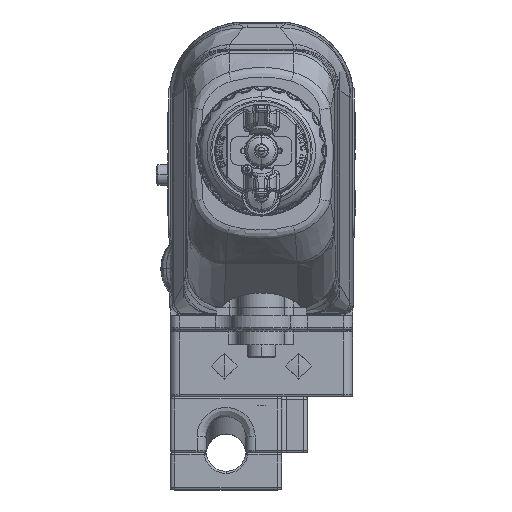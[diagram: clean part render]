
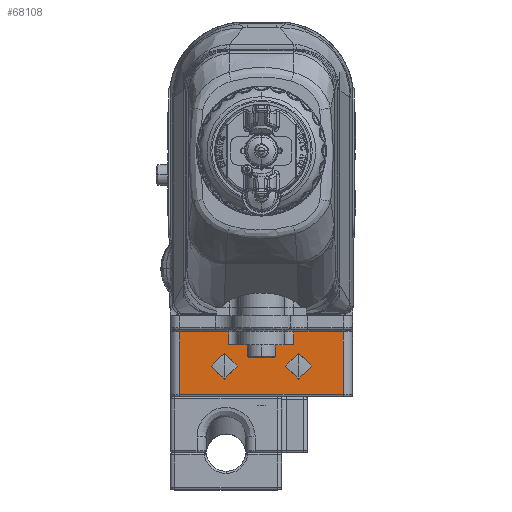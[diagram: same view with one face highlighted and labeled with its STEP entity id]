
A CAD part, top view. The second image highlights one B-rep face of the part: STEP entity #68108.
In plain terms, the highlighted planar face has unit normal (0, 0, 1).
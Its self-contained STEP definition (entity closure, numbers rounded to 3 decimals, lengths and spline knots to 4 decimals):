
#61827=DIRECTION('',(-1.,0.,0.));
#61828=VECTOR('',#61827,0.8729);
#61829=CARTESIAN_POINT('',(0.4364,-3.3,1.99));
#61830=LINE('',#61829,#61828);
#63780=DIRECTION('',(-1.,0.,0.));
#63781=VECTOR('',#63780,2.2);
#63782=CARTESIAN_POINT('',(1.1,-3.97,1.99));
#63783=LINE('',#63782,#63781);
#63784=DIRECTION('',(0.,1.,0.));
#63785=VECTOR('',#63784,0.84);
#63786=CARTESIAN_POINT('',(-1.1,-3.97,1.99));
#63787=LINE('',#63786,#63785);
#63788=DIRECTION('',(1.,0.,0.));
#63789=VECTOR('',#63788,0.6636);
#63790=CARTESIAN_POINT('',(-1.1,-3.13,1.99));
#63791=LINE('',#63790,#63789);
#63792=DIRECTION('',(0.,1.,0.));
#63793=VECTOR('',#63792,0.17);
#63794=CARTESIAN_POINT('',(-0.4364,-3.3,1.99));
#63795=LINE('',#63794,#63793);
#63796=DIRECTION('',(0.,1.,0.));
#63797=VECTOR('',#63796,0.17);
#63798=CARTESIAN_POINT('',(0.4364,-3.3,1.99));
#63799=LINE('',#63798,#63797);
#63800=DIRECTION('',(1.,0.,0.));
#63801=VECTOR('',#63800,0.6636);
#63802=CARTESIAN_POINT('',(0.4364,-3.13,1.99));
#63803=LINE('',#63802,#63801);
#63804=DIRECTION('',(0.,1.,0.));
#63805=VECTOR('',#63804,0.84);
#63806=CARTESIAN_POINT('',(1.1,-3.97,1.99));
#63807=LINE('',#63806,#63805);
#65342=CARTESIAN_POINT('',(-0.4364,-3.3,1.99));
#65343=VERTEX_POINT('',#65342);
#65344=CARTESIAN_POINT('',(0.4364,-3.3,1.99));
#65345=VERTEX_POINT('',#65344);
#65350=CARTESIAN_POINT('',(-1.1,-3.97,1.99));
#65352=VERTEX_POINT('',#65350);
#65356=CARTESIAN_POINT('',(1.1,-3.97,1.99));
#65357=VERTEX_POINT('',#65356);
#65402=CARTESIAN_POINT('',(-1.1,-3.13,1.99));
#65403=CARTESIAN_POINT('',(-0.4364,-3.13,1.99));
#65404=VERTEX_POINT('',#65402);
#65405=VERTEX_POINT('',#65403);
#65424=CARTESIAN_POINT('',(0.4364,-3.13,1.99));
#65425=VERTEX_POINT('',#65424);
#65428=CARTESIAN_POINT('',(1.1,-3.13,1.99));
#65429=VERTEX_POINT('',#65428);
#68086=CARTESIAN_POINT('',(-0.7771,-4.,1.99));
#68087=DIRECTION('',(0.,0.,-1.));
#68088=DIRECTION('',(1.,0.,0.));
#68089=AXIS2_PLACEMENT_3D('',#68086,#68087,#68088);
#68090=PLANE('',#68089);
#68092=ORIENTED_EDGE('',*,*,#68091,.T.);
#68094=ORIENTED_EDGE('',*,*,#68093,.T.);
#68096=ORIENTED_EDGE('',*,*,#68095,.T.);
#68098=ORIENTED_EDGE('',*,*,#68097,.F.);
#68099=ORIENTED_EDGE('',*,*,#66069,.F.);
#68101=ORIENTED_EDGE('',*,*,#68100,.T.);
#68103=ORIENTED_EDGE('',*,*,#68102,.T.);
#68105=ORIENTED_EDGE('',*,*,#68104,.F.);
#68106=EDGE_LOOP('',(#68092,#68094,#68096,#68098,#68099,#68101,#68103,#68105));
#68107=FACE_OUTER_BOUND('',#68106,.F.);
#68108=ADVANCED_FACE('',(#68107),#68090,.F.);
#66069=EDGE_CURVE('',#65345,#65343,#61830,.T.);
#68091=EDGE_CURVE('',#65357,#65352,#63783,.T.);
#68093=EDGE_CURVE('',#65352,#65404,#63787,.T.);
#68095=EDGE_CURVE('',#65404,#65405,#63791,.T.);
#68097=EDGE_CURVE('',#65343,#65405,#63795,.T.);
#68100=EDGE_CURVE('',#65345,#65425,#63799,.T.);
#68102=EDGE_CURVE('',#65425,#65429,#63803,.T.);
#68104=EDGE_CURVE('',#65357,#65429,#63807,.T.);
